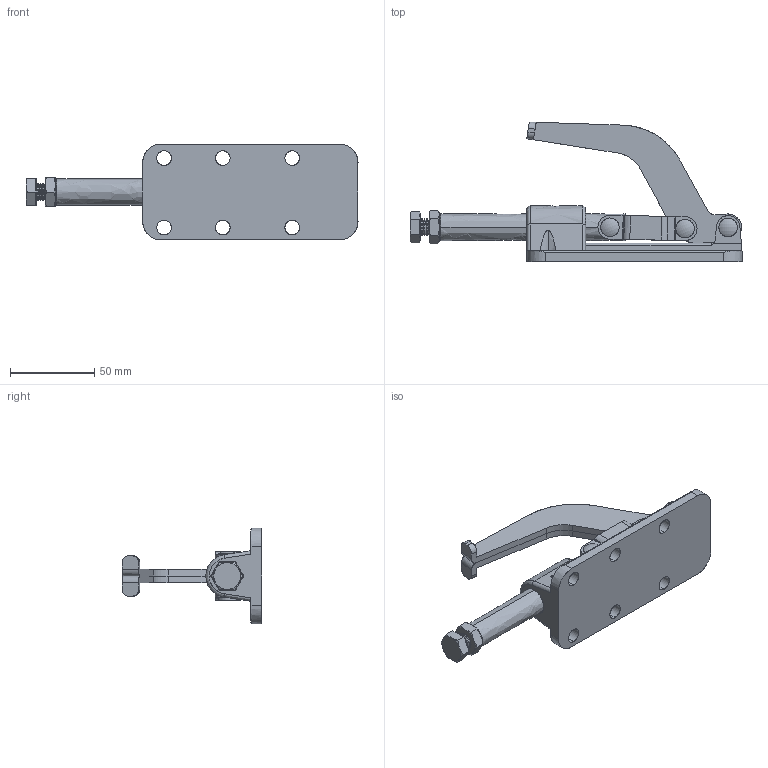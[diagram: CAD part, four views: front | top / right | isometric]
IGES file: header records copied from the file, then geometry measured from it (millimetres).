
Start section: SolidWorks IGES file using analytic representation for surfaces
Global section: file name: \\BARTOP_SV6\share\SOLIDWORKS\工具事業部\坂入用\Toggle clamp\ISK-SL3500\ISK-SL3500.IGS; native system: SolidWorks 2015; preprocessor: SolidWorks 2015; author: SOLID02; date: 150811.110337; units: millimetre
Bounding box: 197.4 x 83.15 x 57 mm (x, y, z)
Surface area: 53841.9 mm2 (no closed solid volume)
Topology: 0 solids, 0 shells, 437 faces, 5155 edges, 5153 vertices
Faces by surface type: revolution 290, bspline 147
